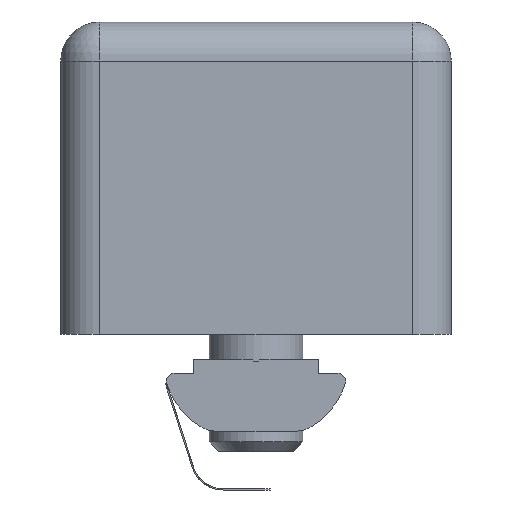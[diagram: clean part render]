
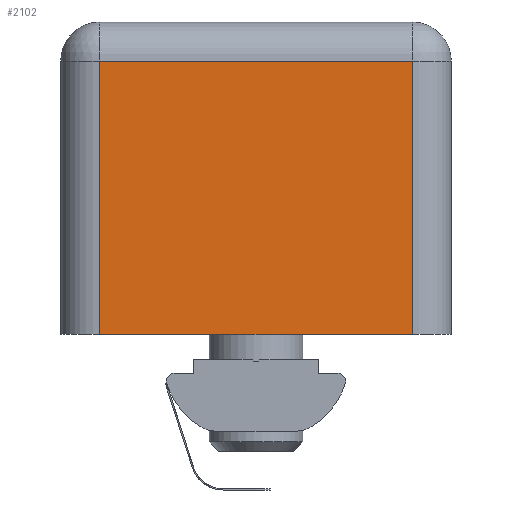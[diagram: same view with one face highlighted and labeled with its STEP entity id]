
A CAD part, front view. The second image highlights one B-rep face of the part: STEP entity #2102.
In plain terms, the highlighted planar face has unit normal (0, -1, 0) as drawn and (0, 1, 0) by its records, which use the part's own axes.
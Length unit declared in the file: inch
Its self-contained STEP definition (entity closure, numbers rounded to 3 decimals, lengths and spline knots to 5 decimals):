
#109=PLANE('',#2387);
#213=FACE_OUTER_BOUND('',#341,.T.);
#341=EDGE_LOOP('',(#1641,#1642,#1643,#1644));
#459=LINE('',#3402,#629);
#466=LINE('',#3451,#636);
#470=LINE('',#3468,#640);
#485=LINE('',#3514,#655);
#629=VECTOR('',#2761,0.03937);
#636=VECTOR('',#2788,0.03937);
#640=VECTOR('',#2810,0.03937);
#655=VECTOR('',#2863,0.03937);
#913=VERTEX_POINT('',#3395);
#914=VERTEX_POINT('',#3400);
#923=VERTEX_POINT('',#3449);
#927=VERTEX_POINT('',#3467);
#1149=EDGE_CURVE('',#914,#913,#459,.T.);
#1164=EDGE_CURVE('',#923,#914,#466,.T.);
#1172=EDGE_CURVE('',#927,#913,#470,.T.);
#1195=EDGE_CURVE('',#927,#923,#485,.T.);
#1641=ORIENTED_EDGE('',*,*,#1149,.F.);
#1642=ORIENTED_EDGE('',*,*,#1164,.F.);
#1643=ORIENTED_EDGE('',*,*,#1195,.F.);
#1644=ORIENTED_EDGE('',*,*,#1172,.T.);
#2102=ADVANCED_FACE('',(#213),#109,.T.);
#2387=AXIS2_PLACEMENT_3D('',#3513,#2861,#2862);
#2761=DIRECTION('',(-1.,0.,0.));
#2788=DIRECTION('',(0.,0.,1.));
#2810=DIRECTION('',(0.,0.,1.));
#2861=DIRECTION('center_axis',(0.,1.,0.));
#2862=DIRECTION('ref_axis',(-1.,0.,0.));
#2863=DIRECTION('',(1.,0.,0.));
#3395=CARTESIAN_POINT('',(-0.3937,0.68898,0.68898));
#3400=CARTESIAN_POINT('',(0.3937,0.68898,0.68898));
#3402=CARTESIAN_POINT('',(0.,0.68898,0.68898));
#3449=CARTESIAN_POINT('',(0.3937,0.68898,0.));
#3451=CARTESIAN_POINT('',(0.3937,0.68898,0.));
#3467=CARTESIAN_POINT('',(-0.3937,0.68898,0.));
#3468=CARTESIAN_POINT('',(-0.3937,0.68898,0.));
#3513=CARTESIAN_POINT('Origin',(0.,0.68898,0.));
#3514=CARTESIAN_POINT('',(-0.3937,0.68898,0.));
